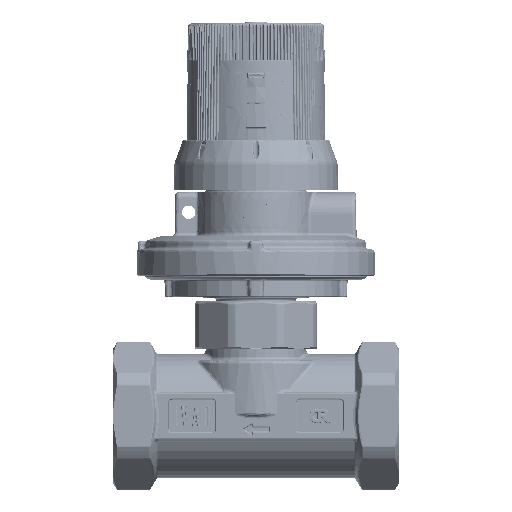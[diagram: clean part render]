
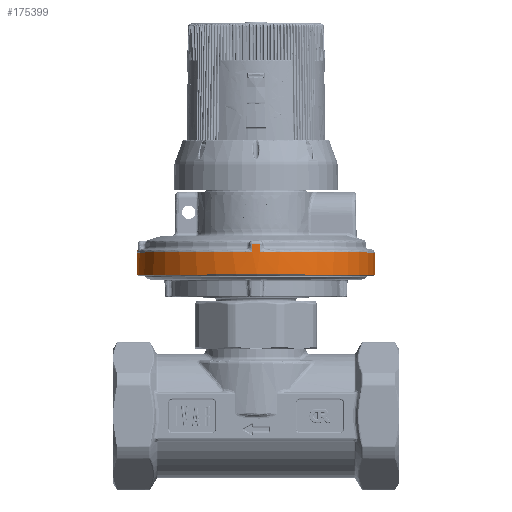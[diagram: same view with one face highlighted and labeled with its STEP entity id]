
A CAD part, top view. The second image highlights one B-rep face of the part: STEP entity #175399.
In plain terms, the highlighted conical face has half-angle 1.5 degrees and reference radius 35.368 mm.
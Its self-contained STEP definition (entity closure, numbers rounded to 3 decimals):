
#4167=CONICAL_SURFACE('',#189667,35.368,0.026);
#27301=LINE('',#386425,#35459);
#27306=LINE('',#386494,#35464);
#27308=LINE('',#386526,#35466);
#27309=LINE('',#386529,#35467);
#27310=LINE('',#386532,#35468);
#27311=LINE('',#386534,#35469);
#27312=LINE('',#386537,#35470);
#35459=VECTOR('',#223937,10.);
#35464=VECTOR('',#223972,10.);
#35466=VECTOR('',#223998,35.368);
#35467=VECTOR('',#224001,10.);
#35468=VECTOR('',#224004,10.);
#35469=VECTOR('',#224005,10.);
#35470=VECTOR('',#224008,10.);
#49763=FACE_OUTER_BOUND('',#60100,.T.);
#60100=EDGE_LOOP('',(#150237,#150238,#150239,#150240,#150241,#150242,#150243,
#150244,#150245,#150246,#150247,#150248,#150249,#150250,#150251,#150252,
#150253));
#68718=CIRCLE('',#189523,35.448);
#68719=CIRCLE('',#189524,35.448);
#68793=CIRCLE('',#189632,35.21);
#68803=CIRCLE('',#189647,35.21);
#68812=CIRCLE('',#189661,35.21);
#68817=CIRCLE('',#189668,35.276);
#68818=CIRCLE('',#189669,35.276);
#68819=CIRCLE('',#189670,35.276);
#68820=CIRCLE('',#189671,35.276);
#83524=VERTEX_POINT('',#385890);
#83525=VERTEX_POINT('',#385891);
#83587=VERTEX_POINT('',#386371);
#83590=VERTEX_POINT('',#386378);
#83596=VERTEX_POINT('',#386424);
#83599=VERTEX_POINT('',#386440);
#83602=VERTEX_POINT('',#386447);
#83608=VERTEX_POINT('',#386493);
#83610=VERTEX_POINT('',#386508);
#83613=VERTEX_POINT('',#386515);
#83616=VERTEX_POINT('',#386525);
#83617=VERTEX_POINT('',#386528);
#83618=VERTEX_POINT('',#386530);
#83619=VERTEX_POINT('',#386533);
#83620=VERTEX_POINT('',#386536);
#106521=EDGE_CURVE('',#83524,#83525,#68718,.T.);
#106522=EDGE_CURVE('',#83525,#83524,#68719,.T.);
#106622=EDGE_CURVE('',#83590,#83587,#68793,.T.);
#106632=EDGE_CURVE('',#83587,#83596,#27301,.T.);
#106639=EDGE_CURVE('',#83602,#83599,#68803,.T.);
#106649=EDGE_CURVE('',#83599,#83608,#27306,.T.);
#106655=EDGE_CURVE('',#83610,#83613,#68812,.T.);
#106660=EDGE_CURVE('',#83524,#83616,#27308,.T.);
#106661=EDGE_CURVE('',#83608,#83616,#68817,.T.);
#106662=EDGE_CURVE('',#83617,#83602,#27309,.T.);
#106663=EDGE_CURVE('',#83618,#83617,#68818,.T.);
#106664=EDGE_CURVE('',#83613,#83618,#27310,.T.);
#106665=EDGE_CURVE('',#83619,#83610,#27311,.T.);
#106666=EDGE_CURVE('',#83596,#83619,#68819,.T.);
#106667=EDGE_CURVE('',#83620,#83590,#27312,.T.);
#106668=EDGE_CURVE('',#83616,#83620,#68820,.T.);
#150237=ORIENTED_EDGE('',*,*,#106521,.T.);
#150238=ORIENTED_EDGE('',*,*,#106522,.T.);
#150239=ORIENTED_EDGE('',*,*,#106660,.T.);
#150240=ORIENTED_EDGE('',*,*,#106661,.F.);
#150241=ORIENTED_EDGE('',*,*,#106649,.F.);
#150242=ORIENTED_EDGE('',*,*,#106639,.F.);
#150243=ORIENTED_EDGE('',*,*,#106662,.F.);
#150244=ORIENTED_EDGE('',*,*,#106663,.F.);
#150245=ORIENTED_EDGE('',*,*,#106664,.F.);
#150246=ORIENTED_EDGE('',*,*,#106655,.F.);
#150247=ORIENTED_EDGE('',*,*,#106665,.F.);
#150248=ORIENTED_EDGE('',*,*,#106666,.F.);
#150249=ORIENTED_EDGE('',*,*,#106632,.F.);
#150250=ORIENTED_EDGE('',*,*,#106622,.F.);
#150251=ORIENTED_EDGE('',*,*,#106667,.F.);
#150252=ORIENTED_EDGE('',*,*,#106668,.F.);
#150253=ORIENTED_EDGE('',*,*,#106660,.F.);
#175399=ADVANCED_FACE('',(#49763),#4167,.T.);
#189523=AXIS2_PLACEMENT_3D('',#385892,#223684,#223685);
#189524=AXIS2_PLACEMENT_3D('',#385893,#223686,#223687);
#189632=AXIS2_PLACEMENT_3D('',#386380,#223916,#223917);
#189647=AXIS2_PLACEMENT_3D('',#386449,#223951,#223952);
#189661=AXIS2_PLACEMENT_3D('',#386516,#223984,#223985);
#189667=AXIS2_PLACEMENT_3D('',#386524,#223996,#223997);
#189668=AXIS2_PLACEMENT_3D('',#386527,#223999,#224000);
#189669=AXIS2_PLACEMENT_3D('',#386531,#224002,#224003);
#189670=AXIS2_PLACEMENT_3D('',#386535,#224006,#224007);
#189671=AXIS2_PLACEMENT_3D('',#386538,#224009,#224010);
#223684=DIRECTION('center_axis',(0.,1.,0.));
#223685=DIRECTION('ref_axis',(-1.,0.,0.));
#223686=DIRECTION('center_axis',(0.,1.,0.));
#223687=DIRECTION('ref_axis',(-1.,0.,0.));
#223916=DIRECTION('center_axis',(0.,1.,0.));
#223917=DIRECTION('ref_axis',(0.,0.,
-1.));
#223937=DIRECTION('',(-0.018,-1.,-0.026));
#223951=DIRECTION('center_axis',(0.,1.,0.));
#223952=DIRECTION('ref_axis',(0.,0.,
1.));
#223972=DIRECTION('',(0.018,-1.,0.026));
#223984=DIRECTION('center_axis',(0.,1.,0.));
#223985=DIRECTION('ref_axis',(-1.,0.,0.));
#223996=DIRECTION('center_axis',(0.,-1.,0.));
#223997=DIRECTION('ref_axis',(-1.,0.,0.));
#223998=DIRECTION('',(-0.026,1.,0.));
#223999=DIRECTION('center_axis',(0.,1.,0.));
#224000=DIRECTION('ref_axis',(-1.,0.,0.));
#224001=DIRECTION('',(0.018,1.,-0.026));
#224002=DIRECTION('center_axis',(0.,1.,0.));
#224003=DIRECTION('ref_axis',(-1.,0.,0.));
#224004=DIRECTION('',(-0.026,-1.,0.018));
#224005=DIRECTION('',(0.026,1.,0.018));
#224006=DIRECTION('center_axis',(0.,1.,0.));
#224007=DIRECTION('ref_axis',(-1.,0.,0.));
#224008=DIRECTION('',(-0.018,1.,0.026));
#224009=DIRECTION('center_axis',(0.,1.,0.));
#224010=DIRECTION('ref_axis',(-1.,0.,0.));
#385890=CARTESIAN_POINT('',(35.448,42.048,0.));
#385891=CARTESIAN_POINT('',(12.378,42.048,33.217));
#385892=CARTESIAN_POINT('Origin',(0.,42.048,
0.));
#385893=CARTESIAN_POINT('Origin',(0.,42.048,
0.));
#386371=CARTESIAN_POINT('',(-1.047,51.126,-35.194));
#386378=CARTESIAN_POINT('',(1.047,51.126,-35.194));
#386380=CARTESIAN_POINT('Origin',(0.,51.126,
0.));
#386424=CARTESIAN_POINT('',(-1.092,48.626,-35.259));
#386425=CARTESIAN_POINT('',(-1.047,51.126,-35.194));
#386440=CARTESIAN_POINT('',(1.047,51.126,35.194));
#386447=CARTESIAN_POINT('',(-1.047,51.126,35.194));
#386449=CARTESIAN_POINT('Origin',(0.,51.126,
0.));
#386493=CARTESIAN_POINT('',(1.092,48.626,35.259));
#386494=CARTESIAN_POINT('',(1.047,51.126,35.194));
#386508=CARTESIAN_POINT('',(-35.194,51.126,-1.047));
#386515=CARTESIAN_POINT('',(-35.194,51.126,1.047));
#386516=CARTESIAN_POINT('Origin',(0.,51.126,
0.));
#386524=CARTESIAN_POINT('Origin',(0.,45.1,
0.));
#386525=CARTESIAN_POINT('',(35.276,48.626,0.));
#386526=CARTESIAN_POINT('',(35.368,45.1,0.));
#386527=CARTESIAN_POINT('Origin',(0.,48.626,
0.));
#386528=CARTESIAN_POINT('',(-1.092,48.626,35.259));
#386529=CARTESIAN_POINT('',(-1.092,48.626,35.259));
#386530=CARTESIAN_POINT('',(-35.259,48.626,1.092));
#386531=CARTESIAN_POINT('Origin',(0.,48.626,
0.));
#386532=CARTESIAN_POINT('',(-35.194,51.126,1.047));
#386533=CARTESIAN_POINT('',(-35.259,48.626,-1.092));
#386534=CARTESIAN_POINT('',(-35.259,48.626,-1.092));
#386535=CARTESIAN_POINT('Origin',(0.,48.626,
0.));
#386536=CARTESIAN_POINT('',(1.092,48.626,-35.259));
#386537=CARTESIAN_POINT('',(1.092,48.626,-35.259));
#386538=CARTESIAN_POINT('Origin',(0.,48.626,
0.));
